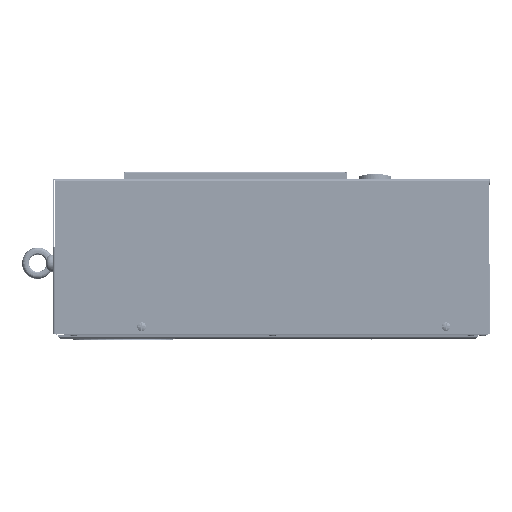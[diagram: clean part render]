
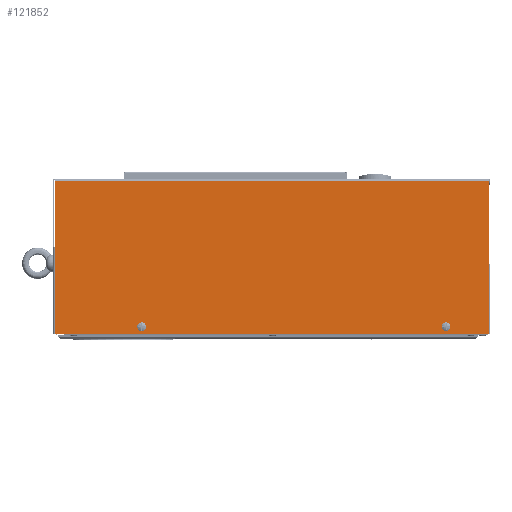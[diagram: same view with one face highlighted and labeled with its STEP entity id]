
A CAD part, left-side view. The second image highlights one B-rep face of the part: STEP entity #121852.
In plain terms, the highlighted planar face has unit normal (-1, 0, 0).
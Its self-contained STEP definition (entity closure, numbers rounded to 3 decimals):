
#4289 = VERTEX_POINT ( 'NONE', #202444 ) ;
#5948 = DIRECTION ( 'NONE',  ( 0., 0., 1. ) ) ;
#6607 = VECTOR ( 'NONE', #144836, 1000. ) ;
#7761 = ORIENTED_EDGE ( 'NONE', *, *, #169824, .F. ) ;
#12448 = DIRECTION ( 'NONE',  ( -1., 0., 0. ) ) ;
#17585 = DIRECTION ( 'NONE',  ( 0., 1., 0. ) ) ;
#19656 = AXIS2_PLACEMENT_3D ( 'NONE', #201020, #58384, #224944 ) ;
#19954 = CARTESIAN_POINT ( 'NONE',  ( -147.377, -234.875, 217.005 ) ) ;
#27219 = VERTEX_POINT ( 'NONE', #143309 ) ;
#32114 = ORIENTED_EDGE ( 'NONE', *, *, #48546, .T. ) ;
#34519 = DIRECTION ( 'NONE',  ( 0., 0., 1. ) ) ;
#37412 = DIRECTION ( 'NONE',  ( -1., 0., 0. ) ) ;
#44417 = CARTESIAN_POINT ( 'NONE',  ( -147.377, 164.125, 46.505 ) ) ;
#46550 = ORIENTED_EDGE ( 'NONE', *, *, #86751, .F. ) ;
#48546 = EDGE_CURVE ( 'NONE', #219721, #222920, #91401, .T. ) ;
#57816 = ORIENTED_EDGE ( 'NONE', *, *, #284080, .F. ) ;
#58384 = DIRECTION ( 'NONE',  ( -1., 0., 0. ) ) ;
#59378 = EDGE_CURVE ( 'NONE', #290381, #219721, #196393, .T. ) ;
#59430 = VECTOR ( 'NONE', #261477, 1000. ) ;
#65077 = ORIENTED_EDGE ( 'NONE', *, *, #107590, .T. ) ;
#73791 = EDGE_LOOP ( 'NONE', ( #150656, #7761 ) ) ;
#79550 = EDGE_LOOP ( 'NONE', ( #57816, #226179 ) ) ;
#80246 = PLANE ( 'NONE',  #252011 ) ;
#86751 = EDGE_CURVE ( 'NONE', #88346, #222920, #122723, .T. ) ;
#88346 = VERTEX_POINT ( 'NONE', #169427 ) ;
#90973 = VERTEX_POINT ( 'NONE', #228118 ) ;
#91401 = LINE ( 'NONE', #253756, #273772 ) ;
#93598 = CARTESIAN_POINT ( 'NONE',  ( -147.377, 264.125, 217.005 ) ) ;
#96973 = CARTESIAN_POINT ( 'NONE',  ( -147.377, -234.875, 42.005 ) ) ;
#105236 = CARTESIAN_POINT ( 'NONE',  ( -147.377, -234.875, 42.005 ) ) ;
#107590 = EDGE_CURVE ( 'NONE', #27219, #290381, #303360, .T. ) ;
#111481 = DIRECTION ( 'NONE',  ( -1., 0., 0. ) ) ;
#121852 = ADVANCED_FACE ( 'NONE', ( #143352, #262479, #199244 ), #80246, .T. ) ;
#122723 = LINE ( 'NONE', #283227, #59430 ) ;
#129643 = VERTEX_POINT ( 'NONE', #44417 ) ;
#136615 = ORIENTED_EDGE ( 'NONE', *, *, #59378, .T. ) ;
#139677 = LINE ( 'NONE', #152722, #258849 ) ;
#143309 = CARTESIAN_POINT ( 'NONE',  ( -147.377, -234.875, 42.005 ) ) ;
#143352 = FACE_BOUND ( 'NONE', #73791, .T. ) ;
#144836 = DIRECTION ( 'NONE',  ( 0., 0., 1. ) ) ;
#150656 = ORIENTED_EDGE ( 'NONE', *, *, #254986, .F. ) ;
#152722 = CARTESIAN_POINT ( 'NONE',  ( -147.377, -234.875, 42.005 ) ) ;
#154849 = CARTESIAN_POINT ( 'NONE',  ( -147.377, 164.125, 50.005 ) ) ;
#161218 = VERTEX_POINT ( 'NONE', #230787 ) ;
#169427 = CARTESIAN_POINT ( 'NONE',  ( -147.377, 264.125, 42.005 ) ) ;
#169824 = EDGE_CURVE ( 'NONE', #4289, #90973, #242799, .T. ) ;
#176632 = DIRECTION ( 'NONE',  ( 0., 1., 0. ) ) ;
#176957 = VECTOR ( 'NONE', #5948, 1000. ) ;
#177046 = DIRECTION ( 'NONE',  ( -1., 0., 0. ) ) ;
#178820 = DIRECTION ( 'NONE',  ( 0., 0., 1. ) ) ;
#179973 = CARTESIAN_POINT ( 'NONE',  ( -147.377, -185.875, 50.005 ) ) ;
#181169 = CIRCLE ( 'NONE', #187574, 3.5 ) ;
#187574 = AXIS2_PLACEMENT_3D ( 'NONE', #154849, #12448, #178820 ) ;
#196234 = CARTESIAN_POINT ( 'NONE',  ( -147.377, -234.875, 42.005 ) ) ;
#196393 = LINE ( 'NONE', #96973, #6607 ) ;
#197513 = CIRCLE ( 'NONE', #19656, 3.5 ) ;
#199203 = EDGE_LOOP ( 'NONE', ( #46550, #233851, #65077, #136615, #32114 ) ) ;
#199244 = FACE_OUTER_BOUND ( 'NONE', #199203, .T. ) ;
#201020 = CARTESIAN_POINT ( 'NONE',  ( -147.377, -185.875, 50.005 ) ) ;
#202444 = CARTESIAN_POINT ( 'NONE',  ( -147.377, -185.875, 46.505 ) ) ;
#203946 = DIRECTION ( 'NONE',  ( 0., 0., 1. ) ) ;
#213046 = EDGE_CURVE ( 'NONE', #129643, #161218, #306647, .T. ) ;
#219721 = VERTEX_POINT ( 'NONE', #19954 ) ;
#222920 = VERTEX_POINT ( 'NONE', #93598 ) ;
#224944 = DIRECTION ( 'NONE',  ( 0., 0., 1. ) ) ;
#226179 = ORIENTED_EDGE ( 'NONE', *, *, #213046, .F. ) ;
#227993 = AXIS2_PLACEMENT_3D ( 'NONE', #179973, #37412, #203946 ) ;
#228118 = CARTESIAN_POINT ( 'NONE',  ( -147.377, -185.875, 53.505 ) ) ;
#230787 = CARTESIAN_POINT ( 'NONE',  ( -147.377, 164.125, 53.505 ) ) ;
#233851 = ORIENTED_EDGE ( 'NONE', *, *, #236709, .F. ) ;
#236709 = EDGE_CURVE ( 'NONE', #27219, #88346, #139677, .T. ) ;
#242799 = CIRCLE ( 'NONE', #227993, 3.5 ) ;
#252011 = AXIS2_PLACEMENT_3D ( 'NONE', #105236, #177046, #34519 ) ;
#253756 = CARTESIAN_POINT ( 'NONE',  ( -147.377, -234.875, 217.005 ) ) ;
#254078 = CARTESIAN_POINT ( 'NONE',  ( -147.377, 164.125, 50.005 ) ) ;
#254986 = EDGE_CURVE ( 'NONE', #90973, #4289, #197513, .T. ) ;
#257468 = AXIS2_PLACEMENT_3D ( 'NONE', #254078, #111481, #277843 ) ;
#258849 = VECTOR ( 'NONE', #176632, 1000. ) ;
#261477 = DIRECTION ( 'NONE',  ( 0., 0., 1. ) ) ;
#262479 = FACE_BOUND ( 'NONE', #79550, .T. ) ;
#273772 = VECTOR ( 'NONE', #17585, 1000. ) ;
#277843 = DIRECTION ( 'NONE',  ( 0., 0., 1. ) ) ;
#282782 = CARTESIAN_POINT ( 'NONE',  ( -147.377, -234.875, 122.005 ) ) ;
#283227 = CARTESIAN_POINT ( 'NONE',  ( -147.377, 264.125, 42.005 ) ) ;
#284080 = EDGE_CURVE ( 'NONE', #161218, #129643, #181169, .T. ) ;
#290381 = VERTEX_POINT ( 'NONE', #282782 ) ;
#303360 = LINE ( 'NONE', #196234, #176957 ) ;
#306647 = CIRCLE ( 'NONE', #257468, 3.5 ) ;
